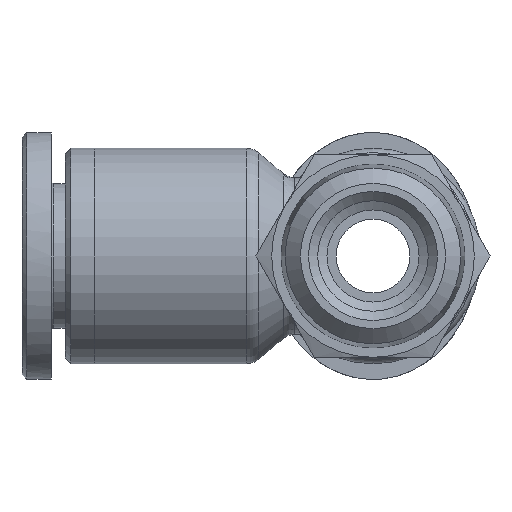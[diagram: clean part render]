
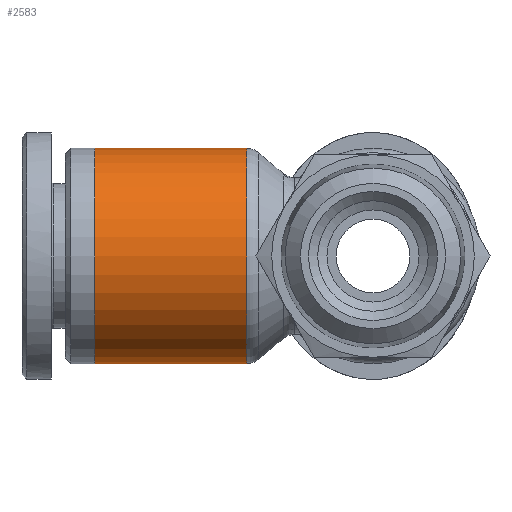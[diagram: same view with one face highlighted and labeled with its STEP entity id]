
A CAD part, front view. The second image highlights one B-rep face of the part: STEP entity #2583.
In plain terms, the highlighted cylindrical face has radius 5.85 mm (diameter 11.7 mm), a full revolution.
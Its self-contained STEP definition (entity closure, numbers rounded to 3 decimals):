
#2530=CARTESIAN_POINT('',(8.235,5.85,0.0));
#2531=VERTEX_POINT('',#2530);
#2532=CARTESIAN_POINT('',(8.235,0.,0.0));
#2533=DIRECTION('',(1.0,0.0,0.0));
#2534=DIRECTION('',(0.0,-1.0,0.0));
#2535=AXIS2_PLACEMENT_3D('',#2532,#2533,#2534);
#2536=CIRCLE('',#2535,5.85);
#2537=EDGE_CURVE('',#2531,#2531,#2536,.T.);
#2564=CARTESIAN_POINT('',(4.3,0.,0.0));
#2565=DIRECTION('',(1.0,0.,0.0));
#2566=DIRECTION('',(0.0,1.0,0.0));
#2567=AXIS2_PLACEMENT_3D('',#2564,#2565,#2566);
#2568=CYLINDRICAL_SURFACE('',#2567,5.85);
#2569=CARTESIAN_POINT('',(0.0,5.85,0.0));
#2570=VERTEX_POINT('',#2569);
#2571=CARTESIAN_POINT('',(0.,0.,0.0));
#2572=DIRECTION('',(1.0,0.0,0.0));
#2573=DIRECTION('',(0.0,1.0,0.0));
#2574=AXIS2_PLACEMENT_3D('',#2571,#2572,#2573);
#2575=CIRCLE('',#2574,5.85);
#2576=EDGE_CURVE('',#2570,#2570,#2575,.T.);
#2577=ORIENTED_EDGE('',*,*,#2576,.T.);
#2578=EDGE_LOOP('',(#2577));
#2579=FACE_OUTER_BOUND('',#2578,.T.);
#2580=ORIENTED_EDGE('',*,*,#2537,.F.);
#2581=EDGE_LOOP('',(#2580));
#2582=FACE_BOUND('',#2581,.T.);
#2583=ADVANCED_FACE('',(#2579,#2582),#2568,.T.);
